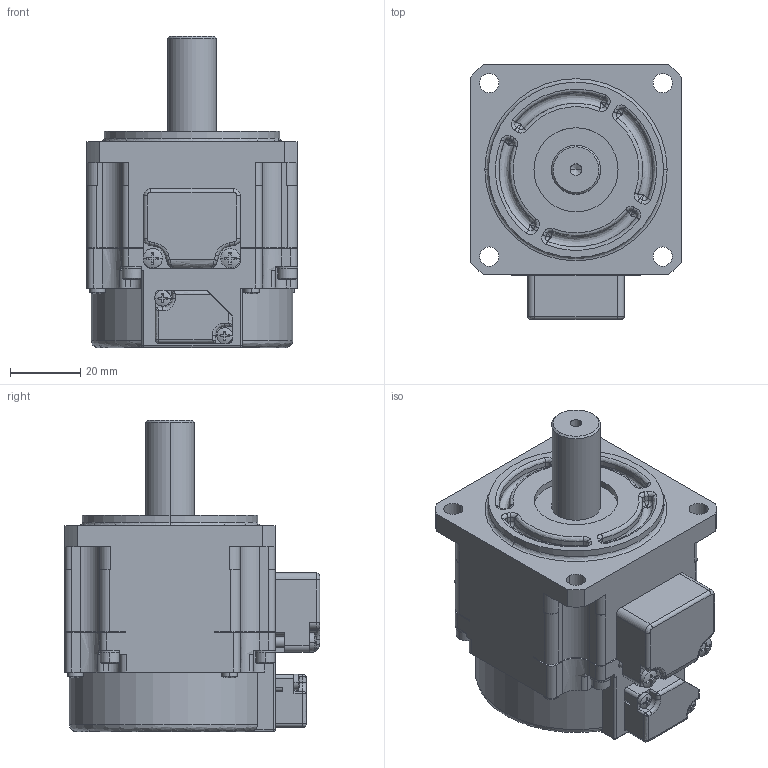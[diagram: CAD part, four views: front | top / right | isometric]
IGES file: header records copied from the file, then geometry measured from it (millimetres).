
Start section:  PTC IGES file: tsm4261n2800_outline.igs
Global section: file name: tsm4261n2800_outline.igs; native system: Creo Parametric by PTC Inc.; preprocessor: 2022484; author: tec1068; organization: Unknown; date: 20240215.095415; units: millimetre
Bounding box: 60.3 x 72.85 x 88.8 mm (x, y, z)
Surface area: 26032.7 mm2 (no closed solid volume)
Topology: 0 solids, 0 shells, 666 faces, 3506 edges, 3504 vertices
Faces by surface type: bspline 340, revolution 326
